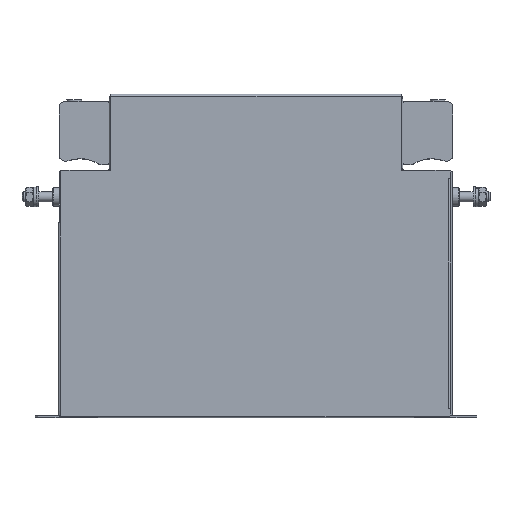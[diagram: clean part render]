
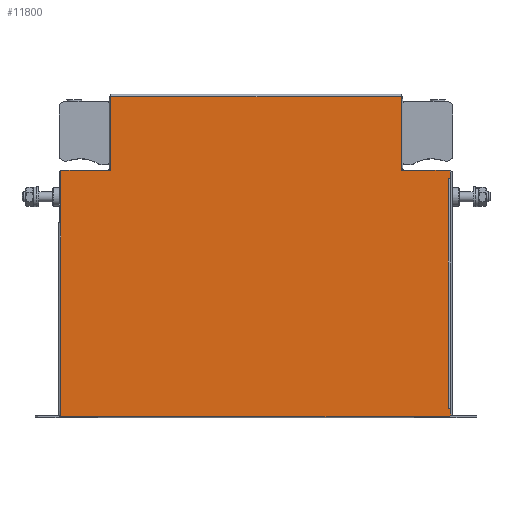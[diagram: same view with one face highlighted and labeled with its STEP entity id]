
A CAD part, top view. The second image highlights one B-rep face of the part: STEP entity #11800.
In plain terms, the highlighted planar face has unit normal (0, 0, 1).
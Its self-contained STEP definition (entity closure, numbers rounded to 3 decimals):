
#408=LINE('',#17127,#1569);
#414=LINE('',#17140,#1575);
#416=LINE('',#17145,#1577);
#425=LINE('',#17164,#1586);
#438=LINE('',#17195,#1599);
#440=LINE('',#17201,#1601);
#444=LINE('',#17210,#1605);
#450=LINE('',#17221,#1611);
#451=LINE('',#17223,#1612);
#453=LINE('',#17228,#1614);
#457=LINE('',#17235,#1618);
#460=LINE('',#17241,#1621);
#471=LINE('',#17269,#1632);
#475=LINE('',#17288,#1636);
#476=LINE('',#17292,#1637);
#482=LINE('',#17303,#1643);
#483=LINE('',#17305,#1644);
#485=LINE('',#17310,#1646);
#490=LINE('',#17320,#1651);
#504=LINE('',#17356,#1665);
#507=LINE('',#17362,#1668);
#512=LINE('',#17372,#1673);
#513=LINE('',#17374,#1674);
#537=LINE('',#17420,#1698);
#538=LINE('',#17422,#1699);
#562=LINE('',#17468,#1723);
#566=LINE('',#17475,#1727);
#1569=VECTOR('',#13993,10.);
#1575=VECTOR('',#14001,10.);
#1577=VECTOR('',#14005,10.);
#1586=VECTOR('',#14016,10.);
#1599=VECTOR('',#14047,10.);
#1601=VECTOR('',#14051,10.);
#1605=VECTOR('',#14057,10.);
#1611=VECTOR('',#14065,10.);
#1612=VECTOR('',#14068,10.);
#1614=VECTOR('',#14072,10.);
#1618=VECTOR('',#14078,10.);
#1621=VECTOR('',#14083,10.);
#1632=VECTOR('',#14112,10.);
#1636=VECTOR('',#14130,10.);
#1637=VECTOR('',#14133,10.);
#1643=VECTOR('',#14141,10.);
#1644=VECTOR('',#14144,10.);
#1646=VECTOR('',#14148,10.);
#1651=VECTOR('',#14155,10.);
#1665=VECTOR('',#14187,10.);
#1668=VECTOR('',#14192,10.);
#1673=VECTOR('',#14199,10.);
#1674=VECTOR('',#14202,10.);
#1698=VECTOR('',#14236,10.);
#1699=VECTOR('',#14239,10.);
#1723=VECTOR('',#14281,10.);
#1727=VECTOR('',#14287,10.);
#2630=PLANE('',#12604);
#3365=FACE_OUTER_BOUND('',#4083,.T.);
#4083=EDGE_LOOP('',(#8465,#8466,#8467,#8468,#8469,#8470,#8471,#8472,#8473,
#8474,#8475,#8476,#8477,#8478,#8479,#8480,#8481,#8482,#8483,#8484,#8485,
#8486,#8487,#8488,#8489,#8490,#8491));
#5252=VERTEX_POINT('',#17121);
#5254=VERTEX_POINT('',#17125);
#5255=VERTEX_POINT('',#17129);
#5260=VERTEX_POINT('',#17138);
#5261=VERTEX_POINT('',#17142);
#5270=VERTEX_POINT('',#17161);
#5271=VERTEX_POINT('',#17163);
#5281=VERTEX_POINT('',#17197);
#5283=VERTEX_POINT('',#17200);
#5286=VERTEX_POINT('',#17208);
#5287=VERTEX_POINT('',#17209);
#5291=VERTEX_POINT('',#17218);
#5292=VERTEX_POINT('',#17226);
#5293=VERTEX_POINT('',#17227);
#5297=VERTEX_POINT('',#17239);
#5310=VERTEX_POINT('',#17281);
#5313=VERTEX_POINT('',#17286);
#5314=VERTEX_POINT('',#17290);
#5315=VERTEX_POINT('',#17291);
#5319=VERTEX_POINT('',#17300);
#5320=VERTEX_POINT('',#17308);
#5321=VERTEX_POINT('',#17309);
#5325=VERTEX_POINT('',#17318);
#5339=VERTEX_POINT('',#17358);
#5342=VERTEX_POINT('',#17365);
#5355=VERTEX_POINT('',#17405);
#5373=VERTEX_POINT('',#17465);
#6372=EDGE_CURVE('',#5254,#5252,#408,.T.);
#6378=EDGE_CURVE('',#5255,#5260,#414,.T.);
#6380=EDGE_CURVE('',#5260,#5261,#416,.T.);
#6389=EDGE_CURVE('',#5271,#5270,#425,.T.);
#6406=EDGE_CURVE('',#5270,#5255,#438,.T.);
#6408=EDGE_CURVE('',#5281,#5283,#440,.T.);
#6412=EDGE_CURVE('',#5286,#5287,#444,.T.);
#6418=EDGE_CURVE('',#5291,#5286,#450,.T.);
#6419=EDGE_CURVE('',#5287,#5283,#451,.T.);
#6421=EDGE_CURVE('',#5292,#5293,#453,.T.);
#6425=EDGE_CURVE('',#5254,#5292,#457,.T.);
#6428=EDGE_CURVE('',#5293,#5297,#460,.T.);
#6443=EDGE_CURVE('',#5297,#5291,#471,.T.);
#6451=EDGE_CURVE('',#5313,#5310,#475,.T.);
#6452=EDGE_CURVE('',#5314,#5315,#476,.T.);
#6458=EDGE_CURVE('',#5319,#5314,#482,.T.);
#6459=EDGE_CURVE('',#5315,#5310,#483,.T.);
#6461=EDGE_CURVE('',#5320,#5321,#485,.T.);
#6466=EDGE_CURVE('',#5321,#5325,#490,.T.);
#6485=EDGE_CURVE('',#5325,#5319,#504,.T.);
#6488=EDGE_CURVE('',#5339,#5320,#507,.T.);
#6493=EDGE_CURVE('',#5342,#5339,#512,.T.);
#6494=EDGE_CURVE('',#5342,#5261,#513,.T.);
#6518=EDGE_CURVE('',#5355,#5271,#537,.T.);
#6519=EDGE_CURVE('',#5355,#5281,#538,.T.);
#6543=EDGE_CURVE('',#5373,#5313,#562,.T.);
#6547=EDGE_CURVE('',#5252,#5373,#566,.T.);
#8465=ORIENTED_EDGE('',*,*,#6547,.F.);
#8466=ORIENTED_EDGE('',*,*,#6372,.F.);
#8467=ORIENTED_EDGE('',*,*,#6425,.T.);
#8468=ORIENTED_EDGE('',*,*,#6421,.T.);
#8469=ORIENTED_EDGE('',*,*,#6428,.T.);
#8470=ORIENTED_EDGE('',*,*,#6443,.T.);
#8471=ORIENTED_EDGE('',*,*,#6418,.T.);
#8472=ORIENTED_EDGE('',*,*,#6412,.T.);
#8473=ORIENTED_EDGE('',*,*,#6419,.T.);
#8474=ORIENTED_EDGE('',*,*,#6408,.F.);
#8475=ORIENTED_EDGE('',*,*,#6519,.F.);
#8476=ORIENTED_EDGE('',*,*,#6518,.T.);
#8477=ORIENTED_EDGE('',*,*,#6389,.T.);
#8478=ORIENTED_EDGE('',*,*,#6406,.T.);
#8479=ORIENTED_EDGE('',*,*,#6378,.T.);
#8480=ORIENTED_EDGE('',*,*,#6380,.T.);
#8481=ORIENTED_EDGE('',*,*,#6494,.F.);
#8482=ORIENTED_EDGE('',*,*,#6493,.T.);
#8483=ORIENTED_EDGE('',*,*,#6488,.T.);
#8484=ORIENTED_EDGE('',*,*,#6461,.T.);
#8485=ORIENTED_EDGE('',*,*,#6466,.T.);
#8486=ORIENTED_EDGE('',*,*,#6485,.T.);
#8487=ORIENTED_EDGE('',*,*,#6458,.T.);
#8488=ORIENTED_EDGE('',*,*,#6452,.T.);
#8489=ORIENTED_EDGE('',*,*,#6459,.T.);
#8490=ORIENTED_EDGE('',*,*,#6451,.F.);
#8491=ORIENTED_EDGE('',*,*,#6543,.F.);
#11800=ADVANCED_FACE('',(#3365),#2630,.T.);
#12604=AXIS2_PLACEMENT_3D('',#17479,#14290,#14291);
#13993=DIRECTION('',(0.,-1.,0.));
#14001=DIRECTION('',(0.,-1.,0.));
#14005=DIRECTION('',(-1.,0.,0.));
#14016=DIRECTION('',(0.,1.,0.));
#14047=DIRECTION('',(-1.,0.,0.));
#14051=DIRECTION('',(0.,-1.,0.));
#14057=DIRECTION('',(0.,1.,0.));
#14065=DIRECTION('',(-1.,0.,0.));
#14068=DIRECTION('',(1.,0.,0.));
#14072=DIRECTION('',(0.,1.,0.));
#14078=DIRECTION('',(-1.,0.,0.));
#14083=DIRECTION('',(1.,0.,0.));
#14112=DIRECTION('',(0.,1.,0.));
#14130=DIRECTION('',(0.,1.,0.));
#14133=DIRECTION('',(0.,-1.,0.));
#14141=DIRECTION('',(1.,0.,0.));
#14144=DIRECTION('',(-1.,0.,0.));
#14148=DIRECTION('',(0.,-1.,0.));
#14155=DIRECTION('',(-1.,0.,0.));
#14187=DIRECTION('',(0.,-1.,0.));
#14192=DIRECTION('',(1.,0.,0.));
#14199=DIRECTION('',(0.,-1.,0.));
#14202=DIRECTION('',(0.707,0.707,0.));
#14236=DIRECTION('',(-1.,0.,0.));
#14239=DIRECTION('',(0.707,-0.707,0.));
#14281=DIRECTION('',(-1.,0.,0.));
#14287=DIRECTION('',(-0.707,-0.707,0.));
#14290=DIRECTION('center_axis',(0.,0.,
1.));
#14291=DIRECTION('ref_axis',(1.,0.,0.));
#17121=CARTESIAN_POINT('',(117.,1.5,34.85));
#17125=CARTESIAN_POINT('',(117.,5.49,34.85));
#17127=CARTESIAN_POINT('',(117.,0.5,34.85));
#17129=CARTESIAN_POINT('',(-87.2,192.5,34.85));
#17138=CARTESIAN_POINT('',(-87.2,148.3,34.85));
#17140=CARTESIAN_POINT('',(-87.2,145.625,34.85));
#17142=CARTESIAN_POINT('',(-116.5,148.3,34.85));
#17145=CARTESIAN_POINT('',(-43.85,148.3,34.85));
#17161=CARTESIAN_POINT('',(87.2,192.5,34.85));
#17163=CARTESIAN_POINT('',(87.2,148.3,34.85));
#17164=CARTESIAN_POINT('',(87.2,122.775,34.85));
#17195=CARTESIAN_POINT('',(43.35,192.5,34.85));
#17197=CARTESIAN_POINT('',(117.,147.3,34.85));
#17200=CARTESIAN_POINT('',(117.,143.31,34.85));
#17201=CARTESIAN_POINT('',(117.,0.5,34.85));
#17208=CARTESIAN_POINT('',(115.49,143.3,34.85));
#17209=CARTESIAN_POINT('',(115.49,143.31,34.85));
#17210=CARTESIAN_POINT('',(115.49,120.275,34.85));
#17218=CARTESIAN_POINT('',(115.5,143.3,34.85));
#17221=CARTESIAN_POINT('',(58.25,143.3,34.85));
#17223=CARTESIAN_POINT('',(57.495,143.31,34.85));
#17226=CARTESIAN_POINT('',(115.49,5.49,34.85));
#17227=CARTESIAN_POINT('',(115.49,5.5,34.85));
#17228=CARTESIAN_POINT('',(115.49,51.37,34.85));
#17235=CARTESIAN_POINT('',(58.25,5.49,34.85));
#17239=CARTESIAN_POINT('',(115.5,5.5,34.85));
#17241=CARTESIAN_POINT('',(57.495,5.5,34.85));
#17269=CARTESIAN_POINT('',(115.5,51.375,34.85));
#17281=CARTESIAN_POINT('',(-118.,0.99,34.85));
#17286=CARTESIAN_POINT('',(-118.,0.5,34.85));
#17288=CARTESIAN_POINT('',(-118.,194.,34.85));
#17290=CARTESIAN_POINT('',(-117.19,1.,34.85));
#17291=CARTESIAN_POINT('',(-117.19,0.99,34.85));
#17292=CARTESIAN_POINT('',(-117.19,49.125,34.85));
#17300=CARTESIAN_POINT('',(-117.2,1.,34.85));
#17303=CARTESIAN_POINT('',(-59.25,1.,34.85));
#17305=CARTESIAN_POINT('',(-58.845,0.99,34.85));
#17308=CARTESIAN_POINT('',(-117.19,116.81,34.85));
#17309=CARTESIAN_POINT('',(-117.19,116.8,34.85));
#17310=CARTESIAN_POINT('',(-117.19,107.03,34.85));
#17318=CARTESIAN_POINT('',(-117.2,116.8,34.85));
#17320=CARTESIAN_POINT('',(-58.845,116.8,34.85));
#17356=CARTESIAN_POINT('',(-117.2,107.025,34.85));
#17358=CARTESIAN_POINT('',(-117.5,116.81,34.85));
#17362=CARTESIAN_POINT('',(-59.25,116.81,34.85));
#17365=CARTESIAN_POINT('',(-117.5,147.3,34.85));
#17372=CARTESIAN_POINT('',(-117.5,114.902,34.85));
#17374=CARTESIAN_POINT('',(-100.513,164.287,34.85));
#17405=CARTESIAN_POINT('',(116.,148.3,34.85));
#17420=CARTESIAN_POINT('',(58.25,148.3,34.85));
#17422=CARTESIAN_POINT('',(99.887,164.412,34.85));
#17465=CARTESIAN_POINT('',(116.,0.5,34.85));
#17468=CARTESIAN_POINT('',(-118.,0.5,34.85));
#17475=CARTESIAN_POINT('',(111.313,-4.188,34.85));
#17479=CARTESIAN_POINT('Origin',(-0.5,97.25,34.85));
